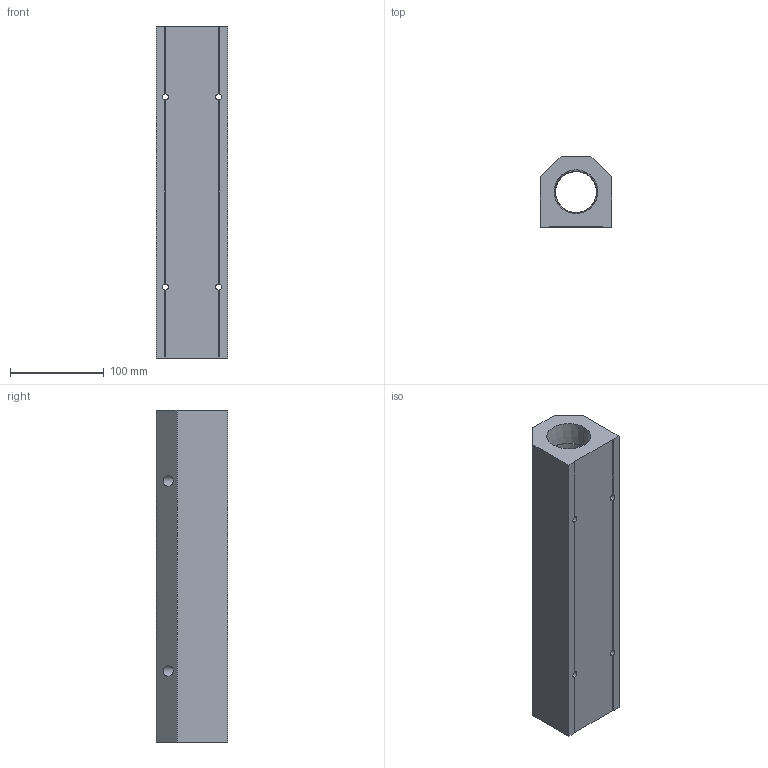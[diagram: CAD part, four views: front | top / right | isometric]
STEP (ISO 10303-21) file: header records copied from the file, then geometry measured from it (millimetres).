
FILE_DESCRIPTION (( 'STEP AP214' ), '1' );
FILE_NAME ('ALM6C-N8N24-355R.step', '2022-02-07T09:23:30', ( '' ), ( '' ), 'SwSTEP 2.0', 'SolidWorks 2020', '' );
FILE_SCHEMA (( 'AUTOMOTIVE_DESIGN' ));
Length unit declared in the file: millimetre
Products named in the file (1): ALM6C-N8N24-355R
Bounding box: 76.2 x 76.2 x 355 mm (x, y, z)
Volume: 1288722.7 mm3; surface area: 163882.9 mm2
Topology: 1 solids, 1 shells, 300 faces, 796 edges, 528 vertices
Faces by surface type: plane 188, bspline 78, cylinder 18, cone 16
Entity records: 17297 total; most frequent: CARTESIAN_POINT 7535, ORIENTED_EDGE 1592, DIRECTION 1106, EDGE_CURVE 796, VECTOR 564, LINE 564, VERTEX_POINT 528, EDGE_LOOP 352
